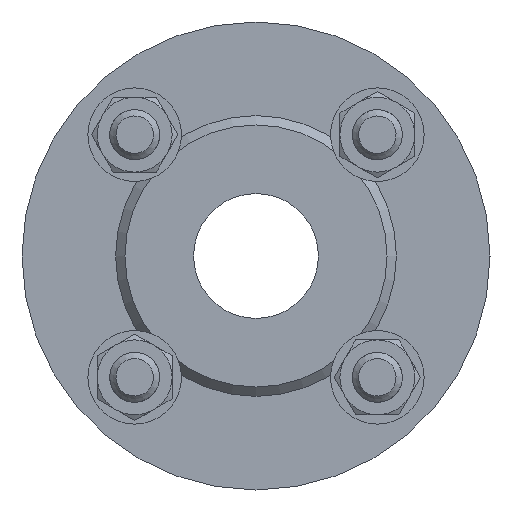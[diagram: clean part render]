
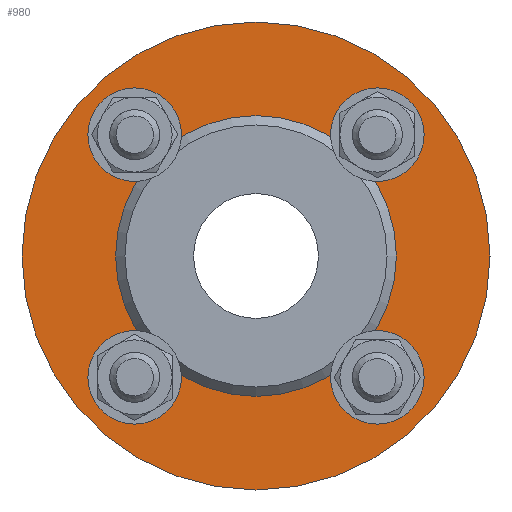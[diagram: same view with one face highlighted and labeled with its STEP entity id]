
A CAD part, left-side view. The second image highlights one B-rep face of the part: STEP entity #980.
In plain terms, the highlighted planar face has unit normal (-1, 0, 0).
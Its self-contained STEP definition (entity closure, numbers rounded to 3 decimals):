
#44 = FACE_BOUND ( 'NONE', #7707, .T. ) ;
#784 = EDGE_LOOP ( 'NONE', ( #13052 ) ) ;
#841 = DIRECTION ( 'NONE',  ( -1., 0., 0. ) ) ;
#965 = PLANE ( 'NONE',  #7104 ) ;
#980 = ADVANCED_FACE ( 'NONE', ( #11289, #5474, #10154, #6703, #44, #9378 ), #965, .F. ) ;
#1369 = EDGE_CURVE ( 'NONE', #5890, #5890, #2167, .T. ) ;
#1440 = EDGE_LOOP ( 'NONE', ( #8674 ) ) ;
#1895 = DIRECTION ( 'NONE',  ( 0., -1., 0. ) ) ;
#2029 = AXIS2_PLACEMENT_3D ( 'NONE', #7640, #841, #11235 ) ;
#2167 = CIRCLE ( 'NONE', #6803, 75. ) ;
#2268 = EDGE_CURVE ( 'NONE', #15002, #15002, #8617, .T. ) ;
#2444 = CARTESIAN_POINT ( 'NONE',  ( -60., -75., 0. ) ) ;
#2655 = ORIENTED_EDGE ( 'NONE', *, *, #6909, .F. ) ;
#3112 = AXIS2_PLACEMENT_3D ( 'NONE', #14942, #5761, #10432 ) ;
#3329 = DIRECTION ( 'NONE',  ( 1., 0., 0. ) ) ;
#3820 = VERTEX_POINT ( 'NONE', #9561 ) ;
#3928 = CIRCLE ( 'NONE', #5923, 8. ) ;
#4237 = DIRECTION ( 'NONE',  ( 0., -1., 0. ) ) ;
#4394 = EDGE_CURVE ( 'NONE', #3820, #3820, #5036, .T. ) ;
#4527 = CARTESIAN_POINT ( 'NONE',  ( -60., -38.891, 30.891 ) ) ;
#4987 = CIRCLE ( 'NONE', #9400, 45. ) ;
#5036 = CIRCLE ( 'NONE', #12867, 8. ) ;
#5474 = FACE_BOUND ( 'NONE', #7738, .T. ) ;
#5761 = DIRECTION ( 'NONE',  ( -1., 0., 0. ) ) ;
#5890 = VERTEX_POINT ( 'NONE', #2444 ) ;
#5923 = AXIS2_PLACEMENT_3D ( 'NONE', #6593, #7899, #11258 ) ;
#6593 = CARTESIAN_POINT ( 'NONE',  ( -60., 38.891, -38.891 ) ) ;
#6703 = FACE_BOUND ( 'NONE', #1440, .T. ) ;
#6803 = AXIS2_PLACEMENT_3D ( 'NONE', #12116, #8819, #4237 ) ;
#6909 = EDGE_CURVE ( 'NONE', #12224, #12224, #12667, .T. ) ;
#7104 = AXIS2_PLACEMENT_3D ( 'NONE', #10522, #3329, #14036 ) ;
#7331 = EDGE_LOOP ( 'NONE', ( #2655 ) ) ;
#7640 = CARTESIAN_POINT ( 'NONE',  ( -60., -38.891, 38.891 ) ) ;
#7707 = EDGE_LOOP ( 'NONE', ( #11995 ) ) ;
#7738 = EDGE_LOOP ( 'NONE', ( #9492 ) ) ;
#7899 = DIRECTION ( 'NONE',  ( -1., 0., 0. ) ) ;
#8177 = VERTEX_POINT ( 'NONE', #9098 ) ;
#8617 = CIRCLE ( 'NONE', #2029, 8. ) ;
#8674 = ORIENTED_EDGE ( 'NONE', *, *, #2268, .F. ) ;
#8819 = DIRECTION ( 'NONE',  ( -1., 0., 0. ) ) ;
#9098 = CARTESIAN_POINT ( 'NONE',  ( -60., -45., 0. ) ) ;
#9378 = FACE_OUTER_BOUND ( 'NONE', #784, .T. ) ;
#9400 = AXIS2_PLACEMENT_3D ( 'NONE', #10172, #13519, #1895 ) ;
#9492 = ORIENTED_EDGE ( 'NONE', *, *, #4394, .F. ) ;
#9561 = CARTESIAN_POINT ( 'NONE',  ( -60., 38.891, 30.891 ) ) ;
#9862 = DIRECTION ( 'NONE',  ( 0., 0., -1. ) ) ;
#10008 = CARTESIAN_POINT ( 'NONE',  ( -60., -38.891, -46.891 ) ) ;
#10154 = FACE_BOUND ( 'NONE', #13954, .T. ) ;
#10172 = CARTESIAN_POINT ( 'NONE',  ( -60., 0., 0. ) ) ;
#10432 = DIRECTION ( 'NONE',  ( 0., 0., -1. ) ) ;
#10522 = CARTESIAN_POINT ( 'NONE',  ( -60., 0., 75. ) ) ;
#10621 = CARTESIAN_POINT ( 'NONE',  ( -60., 38.891, -46.891 ) ) ;
#11009 = DIRECTION ( 'NONE',  ( -1., 0., 0. ) ) ;
#11235 = DIRECTION ( 'NONE',  ( 0., 0., -1. ) ) ;
#11258 = DIRECTION ( 'NONE',  ( 0., 0., -1. ) ) ;
#11289 = FACE_BOUND ( 'NONE', #7331, .T. ) ;
#11386 = EDGE_CURVE ( 'NONE', #8177, #8177, #4987, .T. ) ;
#11995 = ORIENTED_EDGE ( 'NONE', *, *, #11386, .F. ) ;
#12116 = CARTESIAN_POINT ( 'NONE',  ( -60., 0., 0. ) ) ;
#12224 = VERTEX_POINT ( 'NONE', #10008 ) ;
#12667 = CIRCLE ( 'NONE', #3112, 8. ) ;
#12794 = ORIENTED_EDGE ( 'NONE', *, *, #14865, .F. ) ;
#12867 = AXIS2_PLACEMENT_3D ( 'NONE', #14602, #11009, #9862 ) ;
#13052 = ORIENTED_EDGE ( 'NONE', *, *, #1369, .T. ) ;
#13128 = VERTEX_POINT ( 'NONE', #10621 ) ;
#13519 = DIRECTION ( 'NONE',  ( -1., 0., 0. ) ) ;
#13954 = EDGE_LOOP ( 'NONE', ( #12794 ) ) ;
#14036 = DIRECTION ( 'NONE',  ( 0., 1., 0. ) ) ;
#14602 = CARTESIAN_POINT ( 'NONE',  ( -60., 38.891, 38.891 ) ) ;
#14865 = EDGE_CURVE ( 'NONE', #13128, #13128, #3928, .T. ) ;
#14942 = CARTESIAN_POINT ( 'NONE',  ( -60., -38.891, -38.891 ) ) ;
#15002 = VERTEX_POINT ( 'NONE', #4527 ) ;
